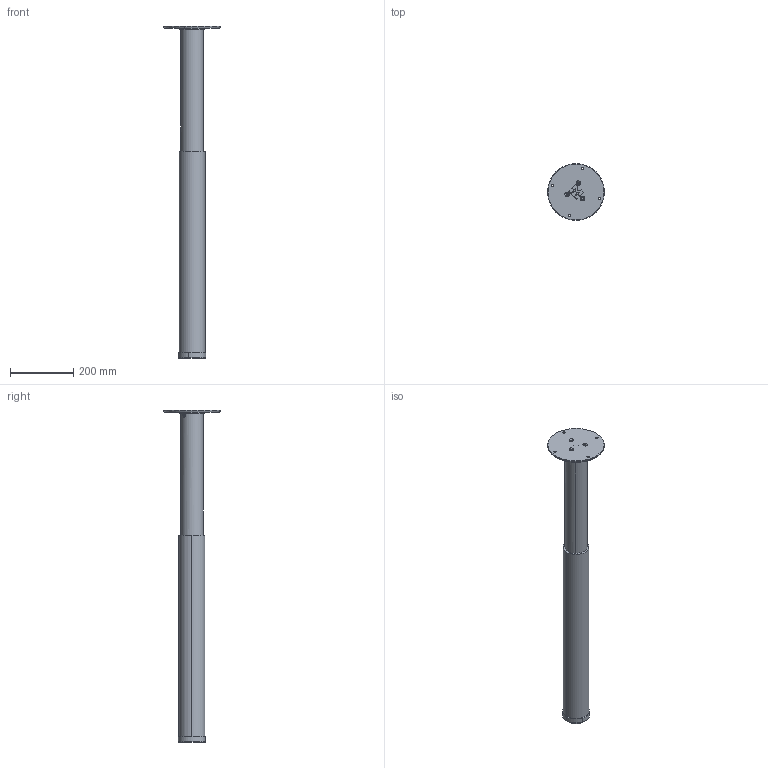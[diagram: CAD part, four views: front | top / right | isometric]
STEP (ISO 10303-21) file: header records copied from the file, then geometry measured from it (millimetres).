
FILE_DESCRIPTION (( 'STEP AP214' ), '1' );
FILE_NAME ('汔蔥ん潠眢蚾饜极.STEP', '2023-09-27T01:05:28', ( '' ), ( '' ), 'SwSTEP 2.0', 'SolidWorks 2019', '' );
FILE_SCHEMA (( 'AUTOMOTIVE_DESIGN' ));
Length unit declared in the file: millimetre
Products named in the file (1): 汔蔥ん潠眢蚾饜极
Bounding box: 178.19 x 178.19 x 1045.9 mm (x, y, z)
Volume: 3399283.1 mm3; surface area: 482430.4 mm2
Topology: 1 solids, 1 shells, 155 faces, 409 edges, 262 vertices
Faces by surface type: cylinder 79, plane 44, cone 20, torus 12
Entity records: 6522 total; most frequent: DIRECTION 937, CARTESIAN_POINT 909, ORIENTED_EDGE 818, EDGE_CURVE 409, AXIS2_PLACEMENT_3D 374, VERTEX_POINT 262, CIRCLE 218, EDGE_LOOP 191
